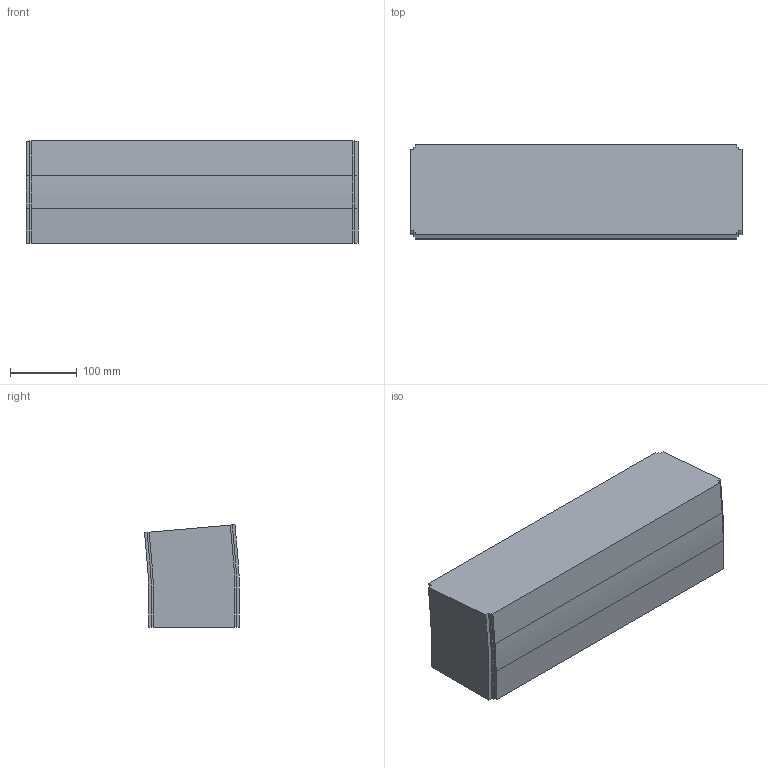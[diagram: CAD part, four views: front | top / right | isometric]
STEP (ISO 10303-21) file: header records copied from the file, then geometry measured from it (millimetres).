
FILE_DESCRIPTION (( 'STEP AP214' ), '1' );
FILE_NAME ('FS-MTC2-150-INOX verticaalbocht.500 5°.STEP', '2017-02-08T12:42:14', ( '' ), ( '' ), 'SwSTEP 2.0', 'SolidWorks 2016', '' );
FILE_SCHEMA (( 'AUTOMOTIVE_DESIGN' ));
Length unit declared in the file: millimetre
Products named in the file (1): FS-MTC2-150-INOX verticaalbocht.500 5°
Bounding box: 499 x 142.72 x 154.33 mm (x, y, z)
Volume: 10093727.3 mm3; surface area: 324733.4 mm2
Topology: 1 solids, 1 shells, 42 faces, 120 edges, 80 vertices
Faces by surface type: plane 32, cylinder 10
Entity records: 1398 total; most frequent: CARTESIAN_POINT 243, ORIENTED_EDGE 240, DIRECTION 226, EDGE_CURVE 120, LINE 100, VECTOR 100, VERTEX_POINT 80, AXIS2_PLACEMENT_3D 63
